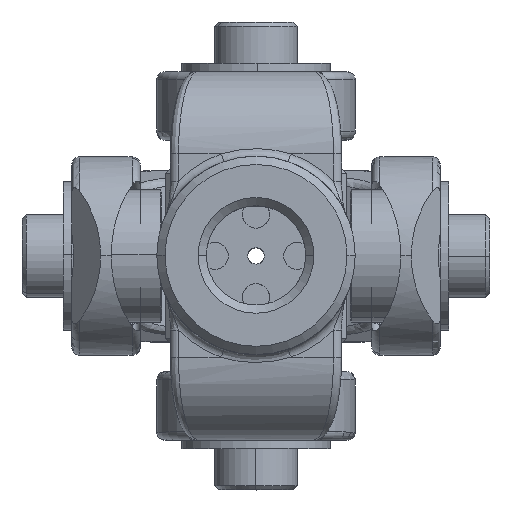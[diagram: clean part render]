
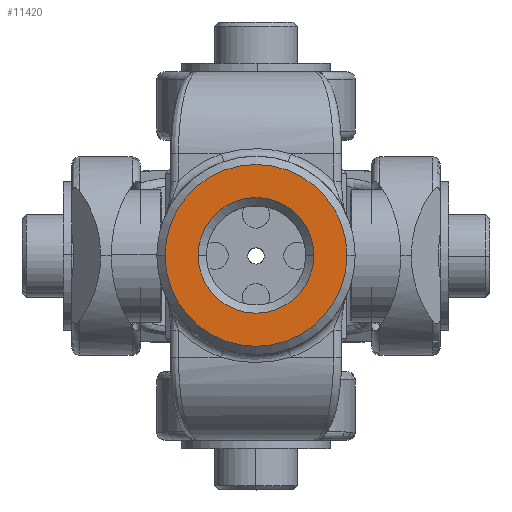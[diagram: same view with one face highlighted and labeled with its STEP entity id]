
A CAD part, top view. The second image highlights one B-rep face of the part: STEP entity #11420.
In plain terms, the highlighted planar face has unit normal (0, 0, 1).
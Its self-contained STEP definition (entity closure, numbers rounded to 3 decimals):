
#33 = ORIENTED_EDGE ( 'NONE', *, *, #7275, .T. ) ;
#394 = AXIS2_PLACEMENT_3D ( 'NONE', #11787, #15812, #4073 ) ;
#456 = EDGE_CURVE ( 'NONE', #9790, #11778, #6707, .T. ) ;
#1652 = CARTESIAN_POINT ( 'NONE',  ( 33.3, 12., 86. ) ) ;
#2019 = ORIENTED_EDGE ( 'NONE', *, *, #15999, .T. ) ;
#2196 = DIRECTION ( 'NONE',  ( 1., 0., 0. ) ) ;
#2270 = VERTEX_POINT ( 'NONE', #9453 ) ;
#2423 = EDGE_LOOP ( 'NONE', ( #33, #14341 ) ) ;
#2800 = AXIS2_PLACEMENT_3D ( 'NONE', #13329, #5618, #5444 ) ;
#3635 = ORIENTED_EDGE ( 'NONE', *, *, #4771, .T. ) ;
#3917 = DIRECTION ( 'NONE',  ( 1., 0., 0. ) ) ;
#4073 = DIRECTION ( 'NONE',  ( 1., 0., 0. ) ) ;
#4346 = CARTESIAN_POINT ( 'NONE',  ( 22.3, 12., 86. ) ) ;
#4771 = EDGE_CURVE ( 'NONE', #6745, #2270, #10503, .T. ) ;
#5295 = FACE_OUTER_BOUND ( 'NONE', #5964, .T. ) ;
#5444 = DIRECTION ( 'NONE',  ( 1., 0., 0. ) ) ;
#5618 = DIRECTION ( 'NONE',  ( 0., 0., 1. ) ) ;
#5964 = EDGE_LOOP ( 'NONE', ( #2019, #3635 ) ) ;
#6130 = DIRECTION ( 'NONE',  ( 0., 0., -1. ) ) ;
#6707 = CIRCLE ( 'NONE', #13815, 7. ) ;
#6745 = VERTEX_POINT ( 'NONE', #1652 ) ;
#7275 = EDGE_CURVE ( 'NONE', #11778, #9790, #13389, .T. ) ;
#7614 = PLANE ( 'NONE',  #9443 ) ;
#8988 = CARTESIAN_POINT ( 'NONE',  ( 22.3, 12., 86. ) ) ;
#9443 = AXIS2_PLACEMENT_3D ( 'NONE', #8988, #14208, #3917 ) ;
#9453 = CARTESIAN_POINT ( 'NONE',  ( 11.3, 12., 86. ) ) ;
#9643 = CIRCLE ( 'NONE', #2800, 11. ) ;
#9790 = VERTEX_POINT ( 'NONE', #16832 ) ;
#10084 = CARTESIAN_POINT ( 'NONE',  ( 22.3, 12., 86. ) ) ;
#10391 = AXIS2_PLACEMENT_3D ( 'NONE', #10084, #6130, #2196 ) ;
#10442 = FACE_BOUND ( 'NONE', #2423, .T. ) ;
#10503 = CIRCLE ( 'NONE', #394, 11. ) ;
#10750 = CARTESIAN_POINT ( 'NONE',  ( 29.3, 12., 86. ) ) ;
#11012 = DIRECTION ( 'NONE',  ( 0., 0., -1. ) ) ;
#11420 = ADVANCED_FACE ( 'NONE', ( #10442, #5295 ), #7614, .T. ) ;
#11778 = VERTEX_POINT ( 'NONE', #10750 ) ;
#11787 = CARTESIAN_POINT ( 'NONE',  ( 22.3, 12., 86. ) ) ;
#13329 = CARTESIAN_POINT ( 'NONE',  ( 22.3, 12., 86. ) ) ;
#13389 = CIRCLE ( 'NONE', #10391, 7. ) ;
#13420 = DIRECTION ( 'NONE',  ( 1., 0., 0. ) ) ;
#13815 = AXIS2_PLACEMENT_3D ( 'NONE', #4346, #11012, #13420 ) ;
#14208 = DIRECTION ( 'NONE',  ( 0., 0., 1. ) ) ;
#14341 = ORIENTED_EDGE ( 'NONE', *, *, #456, .T. ) ;
#15812 = DIRECTION ( 'NONE',  ( 0., 0., 1. ) ) ;
#15999 = EDGE_CURVE ( 'NONE', #2270, #6745, #9643, .T. ) ;
#16832 = CARTESIAN_POINT ( 'NONE',  ( 15.3, 12., 86. ) ) ;
